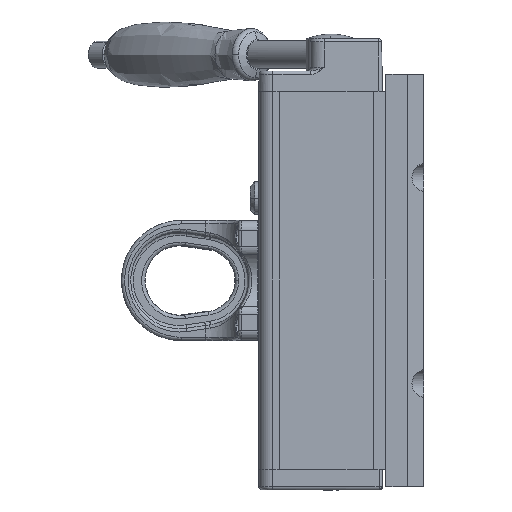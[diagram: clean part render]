
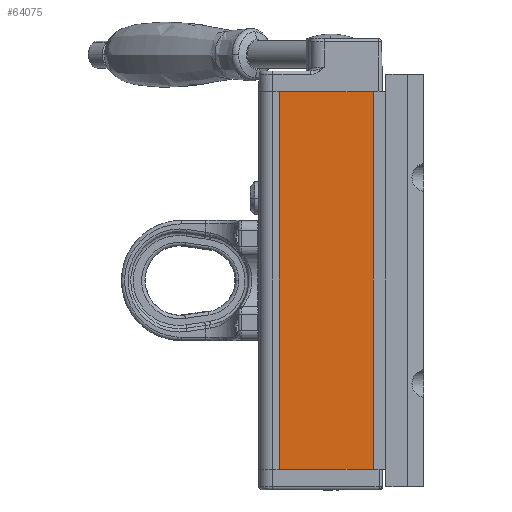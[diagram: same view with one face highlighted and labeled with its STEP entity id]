
A CAD part, left-side view. The second image highlights one B-rep face of the part: STEP entity #64075.
In plain terms, the highlighted planar face has unit normal (-1, 0, 0).
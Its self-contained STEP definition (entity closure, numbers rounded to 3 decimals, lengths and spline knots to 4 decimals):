
#1076 = CARTESIAN_POINT ( 'NONE',  ( -1.6363, 1.3426, 12.9921 ) ) ;
#1676 = EDGE_CURVE ( 'NONE', #51162, #48426, #42640, .T. ) ;
#1817 = ORIENTED_EDGE ( 'NONE', *, *, #45527, .F. ) ;
#10436 = DIRECTION ( 'NONE',  ( 0., 1., 0. ) ) ;
#11012 = DIRECTION ( 'NONE',  ( 0., -1., 0. ) ) ;
#14157 = DIRECTION ( 'NONE',  ( 0., 0., -1. ) ) ;
#15770 = CARTESIAN_POINT ( 'NONE',  ( -1.6363, 1.3426, 12.9921 ) ) ;
#20107 = CARTESIAN_POINT ( 'NONE',  ( -1.6363, -0.8424, 12.9921 ) ) ;
#21984 = ORIENTED_EDGE ( 'NONE', *, *, #49325, .F. ) ;
#23139 = CARTESIAN_POINT ( 'NONE',  ( -1.6363, -0.8424, 4.3307 ) ) ;
#25252 = VECTOR ( 'NONE', #67734, 39.3701 ) ;
#25923 = LINE ( 'NONE', #61056, #61553 ) ;
#28660 = VECTOR ( 'NONE', #65944, 39.3701 ) ;
#32017 = AXIS2_PLACEMENT_3D ( 'NONE', #68025, #50439, #10436 ) ;
#33868 = PLANE ( 'NONE',  #32017 ) ;
#38363 = VERTEX_POINT ( 'NONE', #45452 ) ;
#42640 = LINE ( 'NONE', #69134, #71820 ) ;
#45452 = CARTESIAN_POINT ( 'NONE',  ( -1.6363, -0.8424, 12.9921 ) ) ;
#45527 = EDGE_CURVE ( 'NONE', #46925, #38363, #75434, .T. ) ;
#46925 = VERTEX_POINT ( 'NONE', #1076 ) ;
#48426 = VERTEX_POINT ( 'NONE', #23139 ) ;
#49325 = EDGE_CURVE ( 'NONE', #38363, #48426, #74232, .T. ) ;
#50439 = DIRECTION ( 'NONE',  ( 1., 0., 0. ) ) ;
#51162 = VERTEX_POINT ( 'NONE', #57332 ) ;
#54173 = EDGE_LOOP ( 'NONE', ( #54660, #21984, #1817, #67347 ) ) ;
#54660 = ORIENTED_EDGE ( 'NONE', *, *, #1676, .T. ) ;
#57332 = CARTESIAN_POINT ( 'NONE',  ( -1.6363, 1.3426, 4.3307 ) ) ;
#61056 = CARTESIAN_POINT ( 'NONE',  ( -1.6363, 1.3426, 12.9921 ) ) ;
#61553 = VECTOR ( 'NONE', #14157, 39.3701 ) ;
#64075 = ADVANCED_FACE ( 'NONE', ( #64878 ), #33868, .F. ) ;
#64878 = FACE_OUTER_BOUND ( 'NONE', #54173, .T. ) ;
#65944 = DIRECTION ( 'NONE',  ( 0., 0., -1. ) ) ;
#67347 = ORIENTED_EDGE ( 'NONE', *, *, #72486, .T. ) ;
#67734 = DIRECTION ( 'NONE',  ( 0., -1., 0. ) ) ;
#68025 = CARTESIAN_POINT ( 'NONE',  ( -1.6363, 1.3426, 12.9921 ) ) ;
#69134 = CARTESIAN_POINT ( 'NONE',  ( -1.6363, 1.3426, 4.3307 ) ) ;
#71820 = VECTOR ( 'NONE', #11012, 39.3701 ) ;
#72486 = EDGE_CURVE ( 'NONE', #46925, #51162, #25923, .T. ) ;
#74232 = LINE ( 'NONE', #20107, #28660 ) ;
#75434 = LINE ( 'NONE', #15770, #25252 ) ;
